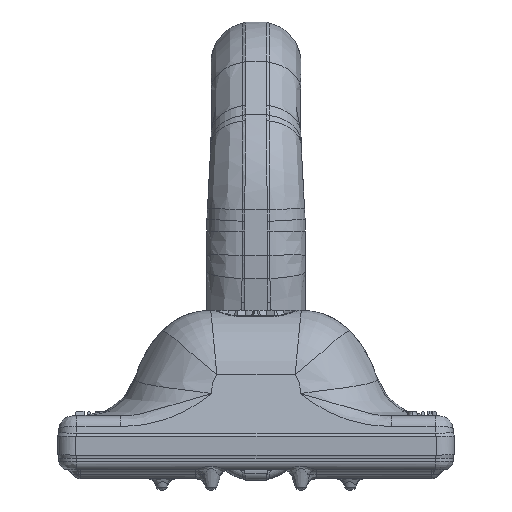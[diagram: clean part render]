
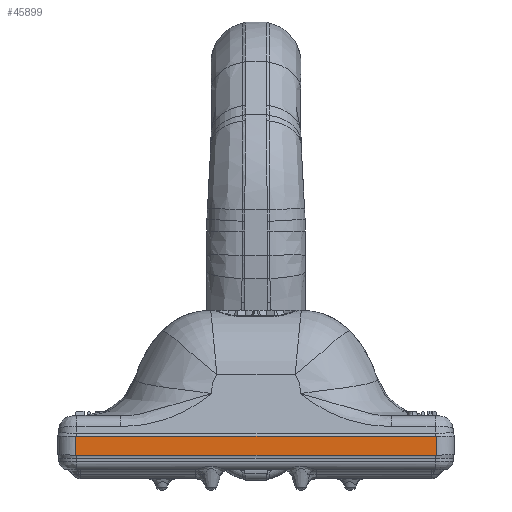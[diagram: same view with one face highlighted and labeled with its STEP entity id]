
A CAD part, left-side view. The second image highlights one B-rep face of the part: STEP entity #45899.
In plain terms, the highlighted planar face has unit normal (-1, 0, 0).
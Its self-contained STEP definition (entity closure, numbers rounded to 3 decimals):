
#45824=CARTESIAN_POINT('',(-85.1,-39.931,-4.294));
#45825=VERTEX_POINT('Vertex105',#45824);
#45826=CARTESIAN_POINT('',(-85.1,-40.1,-4.288));
#45827=VERTEX_POINT('Vertex104',#45826);
#45828=CARTESIAN_POINT('',(-85.1,-39.931,-4.294));
#45829=CARTESIAN_POINT('',(-85.1,-39.988,-4.294));
#45830=CARTESIAN_POINT('',(-85.1,-40.044,-4.292));
#45831=CARTESIAN_POINT('',(-85.1,-40.1,-4.288));
#45832=B_SPLINE_CURVE_WITH_KNOTS('nurbsCrv140',3,(#45828,#45829,#45830,#45831),
.UNSPECIFIED.,.F.,.F.,(4,4),(-0.22,-0.05),
.UNSPECIFIED.);
#45833=EDGE_CURVE('Edge140',#45825,#45827,#45832,.T.);
#45834=ORIENTED_EDGE('Edgeuse236',*,*,#45833,.T.);
#45835=CARTESIAN_POINT('',(-85.1,-40.1,-0.006));
#45836=VERTEX_POINT('Vertex106',#45835);
#45837=CARTESIAN_POINT('',(-85.1,-40.1,-2.147));
#45838=DIRECTION('',(0.,0.,-1.));
#45839=VECTOR('',#45838,1.);
#45840=LINE('nurbsCrv141',#45837,#45839);
#45841=EDGE_CURVE('Edge141',#45836,#45827,#45840,.T.);
#45842=ORIENTED_EDGE('Edgeuse237',*,*,#45841,.F.);
#45843=CARTESIAN_POINT('',(-85.1,-39.976,-0.004));
#45844=VERTEX_POINT('Vertex107',#45843);
#45845=CARTESIAN_POINT('',(-85.1,-40.1,-0.006));
#45846=CARTESIAN_POINT('',(-85.1,-40.059,-0.004));
#45847=CARTESIAN_POINT('',(-85.1,-40.017,-0.004));
#45848=CARTESIAN_POINT('',(-85.1,-39.976,-0.004));
#45849=B_SPLINE_CURVE_WITH_KNOTS('nurbsCrv142',3,(#45845,#45846,#45847,#45848),
.UNSPECIFIED.,.F.,.F.,(4,4),(-0.124,0.),.UNSPECIFIED.);
#45850=EDGE_CURVE('Edge142',#45836,#45844,#45849,.T.);
#45851=ORIENTED_EDGE('Edgeuse238',*,*,#45850,.T.);
#45852=CARTESIAN_POINT('',(-85.1,39.976,-0.004));
#45853=VERTEX_POINT('Vertex108',#45852);
#45854=CARTESIAN_POINT('',(-85.1,0.,-0.004));
#45855=DIRECTION('',(0.,1.,0.));
#45856=VECTOR('',#45855,1.);
#45857=LINE('nurbsCrv143',#45854,#45856);
#45858=EDGE_CURVE('Edge143',#45844,#45853,#45857,.T.);
#45859=ORIENTED_EDGE('Edgeuse239',*,*,#45858,.T.);
#45860=CARTESIAN_POINT('',(-85.1,40.1,-0.006));
#45861=VERTEX_POINT('Vertex109',#45860);
#45862=CARTESIAN_POINT('',(-85.1,39.976,-0.004));
#45863=CARTESIAN_POINT('',(-85.1,40.017,-0.004));
#45864=CARTESIAN_POINT('',(-85.1,40.059,-0.004));
#45865=CARTESIAN_POINT('',(-85.1,40.1,-0.006));
#45866=B_SPLINE_CURVE_WITH_KNOTS('nurbsCrv144',3,(#45862,#45863,#45864,#45865),
.UNSPECIFIED.,.F.,.F.,(4,4),(-0.174,-0.05),
.UNSPECIFIED.);
#45867=EDGE_CURVE('Edge144',#45853,#45861,#45866,.T.);
#45868=ORIENTED_EDGE('Edgeuse240',*,*,#45867,.T.);
#45869=CARTESIAN_POINT('',(-85.1,40.1,-4.288));
#45870=VERTEX_POINT('Vertex110',#45869);
#45871=CARTESIAN_POINT('',(-85.1,40.1,-2.147));
#45872=DIRECTION('',(0.,0.,-1.));
#45873=VECTOR('',#45872,1.);
#45874=LINE('nurbsCrv145',#45871,#45873);
#45875=EDGE_CURVE('Edge145',#45861,#45870,#45874,.T.);
#45876=ORIENTED_EDGE('Edgeuse241',*,*,#45875,.T.);
#45877=CARTESIAN_POINT('',(-85.1,39.931,-4.294));
#45878=VERTEX_POINT('Vertex111',#45877);
#45879=CARTESIAN_POINT('',(-85.1,40.1,-4.288));
#45880=CARTESIAN_POINT('',(-85.1,40.044,-4.292));
#45881=CARTESIAN_POINT('',(-85.1,39.988,-4.294));
#45882=CARTESIAN_POINT('',(-85.1,39.931,-4.294));
#45883=B_SPLINE_CURVE_WITH_KNOTS('nurbsCrv146',3,(#45879,#45880,#45881,#45882),
.UNSPECIFIED.,.F.,.F.,(4,4),(-0.17,0.),.UNSPECIFIED.);
#45884=EDGE_CURVE('Edge146',#45870,#45878,#45883,.T.);
#45885=ORIENTED_EDGE('Edgeuse242',*,*,#45884,.T.);
#45886=CARTESIAN_POINT('',(-85.1,0.,-4.294));
#45887=DIRECTION('',(0.,-1.,0.));
#45888=VECTOR('',#45887,1.);
#45889=LINE('nurbsCrv147',#45886,#45888);
#45890=EDGE_CURVE('Edge147',#45878,#45825,#45889,.T.);
#45891=ORIENTED_EDGE('Edgeuse243',*,*,#45890,.T.);
#45892=EDGE_LOOP('',(#45834,#45842,#45851,#45859,#45868,#45876,#45885,#45891));
#45893=FACE_OUTER_BOUND('',#45892,.T.);
#45894=CARTESIAN_POINT('',(-85.1,0.,-2.149));
#45895=DIRECTION('',(-1.,0.,0.));
#45896=DIRECTION('',(0.,0.,1.));
#45897=AXIS2_PLACEMENT_3D('',#45894,#45895,#45896);
#45898=PLANE('nurbsSrf41',#45897);
#45899=ADVANCED_FACE('Face41',(#45893),#45898,.T.);
